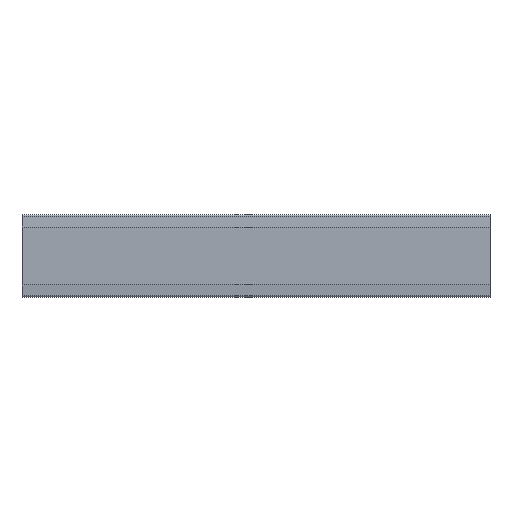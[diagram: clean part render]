
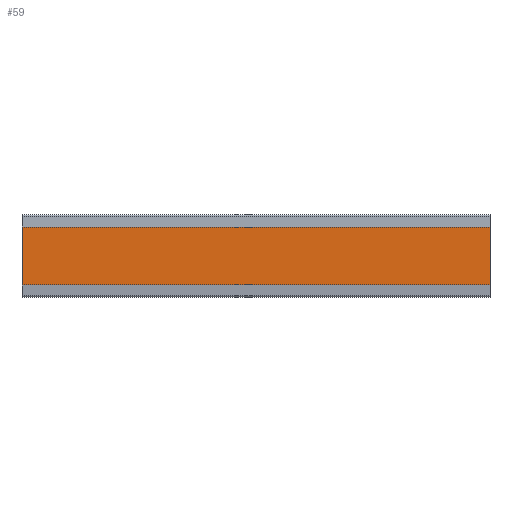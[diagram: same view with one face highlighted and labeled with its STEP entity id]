
A CAD part, top view. The second image highlights one B-rep face of the part: STEP entity #59.
In plain terms, the highlighted planar face has unit normal (0, 0, 1).
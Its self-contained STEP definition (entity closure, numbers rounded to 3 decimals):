
#1 = VERTEX_POINT ( 'NONE', #433 ) ;
#2 = EDGE_LOOP ( 'NONE', ( #102, #53, #48, #15 ) ) ;
#15 = ORIENTED_EDGE ( 'NONE', *, *, #50, .T. ) ;
#30 = VERTEX_POINT ( 'NONE', #518 ) ;
#45 = EDGE_CURVE ( 'NONE', #1, #54, #593, .T. ) ;
#47 = EDGE_CURVE ( 'NONE', #55, #30, #587, .T. ) ;
#48 = ORIENTED_EDGE ( 'NONE', *, *, #47, .F. ) ;
#50 = EDGE_CURVE ( 'NONE', #55, #1, #588, .T. ) ;
#53 = ORIENTED_EDGE ( 'NONE', *, *, #61, .F. ) ;
#54 = VERTEX_POINT ( 'NONE', #598 ) ;
#55 = VERTEX_POINT ( 'NONE', #472 ) ;
#59 = ADVANCED_FACE ( 'NONE', ( #577 ), #570, .F. ) ;
#61 = EDGE_CURVE ( 'NONE', #30, #54, #572, .T. ) ;
#102 = ORIENTED_EDGE ( 'NONE', *, *, #45, .T. ) ;
#433 = CARTESIAN_POINT ( 'NONE',  ( 0., 5.473, 0.8 ) ) ;
#472 = CARTESIAN_POINT ( 'NONE',  ( 88.42, 5.473, 0.8 ) ) ;
#498 = DIRECTION ( 'NONE',  ( -1., 0., 0. ) ) ;
#499 = VECTOR ( 'NONE', #498, 1000. ) ;
#503 = DIRECTION ( 'NONE',  ( -1., 0., 0. ) ) ;
#504 = DIRECTION ( 'NONE',  ( 0., 0., -1. ) ) ;
#518 = CARTESIAN_POINT ( 'NONE',  ( 88.42, -5.473, 0.8 ) ) ;
#570 = PLANE ( 'NONE',  #583 ) ;
#571 = CARTESIAN_POINT ( 'NONE',  ( 88.42, -5.473, 0.8 ) ) ;
#572 = LINE ( 'NONE', #571, #499 ) ;
#577 = FACE_OUTER_BOUND ( 'NONE', #2, .T. ) ;
#581 = DIRECTION ( 'NONE',  ( -1., 0., 0. ) ) ;
#582 = CARTESIAN_POINT ( 'NONE',  ( 88.42, 5.473, 0.8 ) ) ;
#583 = AXIS2_PLACEMENT_3D ( 'NONE', #582, #504, #503 ) ;
#584 = DIRECTION ( 'NONE',  ( 0., -1., 0. ) ) ;
#585 = VECTOR ( 'NONE', #584, 1000. ) ;
#586 = CARTESIAN_POINT ( 'NONE',  ( 88.42, 5.473, 0.8 ) ) ;
#587 = LINE ( 'NONE', #586, #585 ) ;
#588 = LINE ( 'NONE', #597, #596 ) ;
#590 = DIRECTION ( 'NONE',  ( 0., -1., 0. ) ) ;
#591 = VECTOR ( 'NONE', #590, 1000. ) ;
#592 = CARTESIAN_POINT ( 'NONE',  ( 0., 5.473, 0.8 ) ) ;
#593 = LINE ( 'NONE', #592, #591 ) ;
#596 = VECTOR ( 'NONE', #581, 1000. ) ;
#597 = CARTESIAN_POINT ( 'NONE',  ( 88.42, 5.473, 0.8 ) ) ;
#598 = CARTESIAN_POINT ( 'NONE',  ( 0., -5.473, 0.8 ) ) ;
